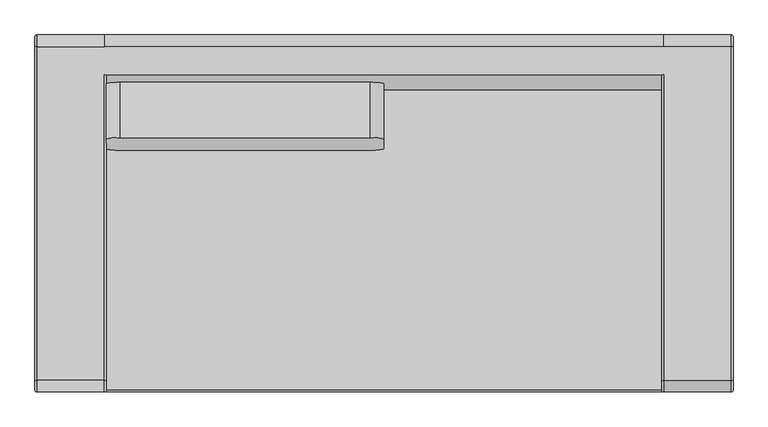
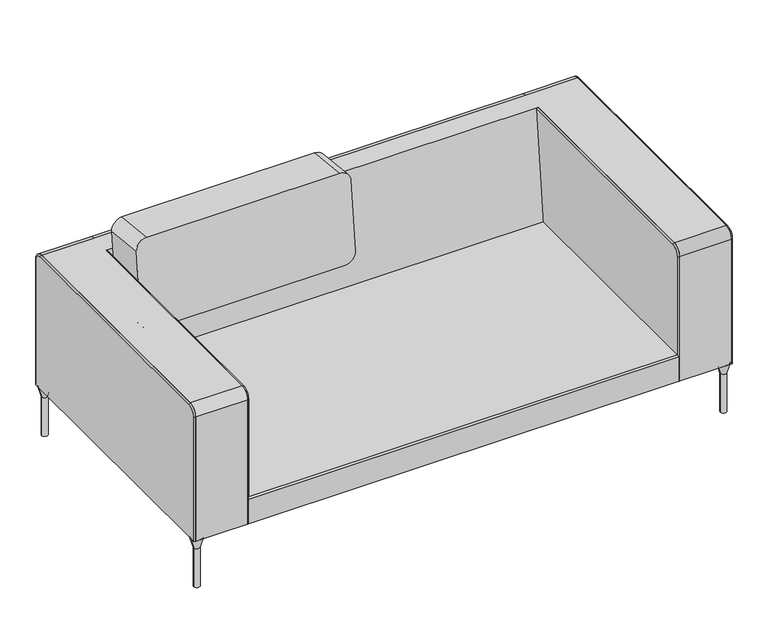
"""IFC4 building model written with IfcOpenShell, lengths in millimetres: furniture geometry, Sofa_Bensen_Neo_NEO200IT : Sofa_Bensen_Neo_NEO200IT."""

from ifc_helpers import new_model, si_unit, point, frame, frame_2d, origin, place, context, project, spatial, polyline, circle_curve, ellipse_curve, trimmed, segment, composite_curve, outline, extrude, source, transform, mapped, element, save
from ifc_brep_helpers import plane_surface, cylinder_surface, revolved_surface, advanced_brep


def furniture_09b90091(model_context):
    return source(origin(), model_context, "Body", "SolidModel", [
        extrude(outline(composite_curve([segment(polyline([(-35.0, -35.0000001), (-35.0, 195.0)]), True, "CONTINUOUS"), segment(trimmed(circle_curve(frame_2d((0.0, 195.0)), 35.0), [point((-35.0, 195.0))], [point((0.0, 230.0))], False, "CARTESIAN"), True, "CONTINUOUS"), segment(polyline([(0.0, 230.0), (630.0, 230.0)]), True, "CONTINUOUS"), segment(trimmed(circle_curve(frame_2d((630.0, 195.0)), 35.0), [point((630.0, 230.0))], [point((665.0, 195.0))], False, "CARTESIAN"), True, "CONTINUOUS"), segment(polyline([(665.0, 195.0), (665.0, -35.0000001)]), True, "CONTINUOUS"), segment(trimmed(circle_curve(frame_2d((630.0, -35.0000001)), 35.0), [point((665.0, -35.0000001))], [point((630.0, -70.0))], False, "CARTESIAN"), True, "CONTINUOUS"), segment(polyline([(630.0, -70.0), (0.0, -70.0)]), True, "CONTINUOUS"), segment(trimmed(circle_curve(frame_2d((0.0, -35.0000001)), 35.0), [point((0.0, -70.0))], [point((-35.0, -35.0000001))], False, "CARTESIAN"), True, "CONTINUOUS")], self_intersect=False)), frame((-665.0000001, 306.1621456, 514.4687306), z_axis=(0.0, -0.9945218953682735, 0.10452846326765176), x_axis=(1.0, 0.0, 0.0)), (0.0, 0.0, 1.0), 140.0),
        advanced_brep(
        [(860.0275996, 430.0263245, 0.0), (869.8719303, 430.0263245, 0.0), (850.1832689, 430.0263245, 0.0), (840.0551992, 430.0263245, 170.0), (880.0, 430.0263245, 170.0), (860.0275996, 430.0263245, 170.0), (850.1832689, 430.0263245, 133.7982678), (869.8719303, 430.0263245, 133.7982678)],
        [
            (0, 1),
            (1, 2, circle_curve(frame((860.0275996, 430.0263245, 0.0), z_axis=(0.0, 0.0, -1.0), x_axis=(1.0, 0.0, 0.0)), 9.8443307)),
            (2, 0),
            (2, 1, circle_curve(frame((860.0275996, 430.0263245, 0.0), z_axis=(0.0, 0.0, -1.0), x_axis=(1.0, 0.0, 0.0)), 9.8443307)),
            (3, 4, circle_curve(frame((860.0275996, 430.0263245, 170.0), z_axis=(0.0, 0.0, 1.0), x_axis=(1.0, 0.0, 0.0)), 19.9724004)),
            (4, 5),
            (5, 3),
            (4, 3, circle_curve(frame((860.0275996, 430.0263245, 170.0), z_axis=(0.0, 0.0, 1.0), x_axis=(1.0, 0.0, 0.0)), 19.9724004)),
            (6, 7, circle_curve(frame((860.0275996, 430.0263245, 133.7982678), z_axis=(0.0, 0.0, 1.0), x_axis=(1.0, 0.0, 0.0)), 9.8443307)),
            (7, 4),
            (3, 6),
            (7, 6, circle_curve(frame((860.0275996, 430.0263245, 133.7982678), z_axis=(0.0, 0.0, 1.0), x_axis=(1.0, 0.0, 0.0)), 9.8443307)),
            (1, 7),
            (6, 2),
        ],
        [
            plane_surface(frame((860.0275996, 430.0263245, 0.0), z_axis=(0.0, 0.0, -1.0), x_axis=(1.0, 0.0, 0.0))),
            plane_surface(frame((860.0275996, 430.0263245, 170.0), z_axis=(0.0, 0.0, 1.0), x_axis=(1.0, 0.0, 0.0))),
            revolved_surface(polyline([(880.0, 430.0263245, 170.0), (869.8719303, 430.0263245, 133.7982678)]), (860.0275996, 430.0263245, 210.0), (0.0, 0.0, -1.0)),
            cylinder_surface(frame((860.0275996, 430.0263245, 210.0), z_axis=(0.0, 0.0, -1.0), x_axis=(1.0, 0.0, 0.0)), 9.8443307),
        ],
        [
            (0, [[1, 2, 3]]),
            (0, [[-3, 4, -1]]),
            (1, [[5, 6, 7]]),
            (1, [[8, -7, -6]]),
            (2, [[9, 10, -5, 11]]),
            (2, [[12, -11, -8, -10]]),
            (3, [[-2, 13, -9, 14]]),
            (3, [[-4, -14, -12, -13]]),
        ],
    ),
        advanced_brep(
        [(860.0275996, -430.0263245, 0.0), (850.1832689, -430.0263245, 0.0), (869.8719303, -430.0263245, 0.0), (840.0551992, -430.0263245, 170.0), (860.0275996, -430.0263245, 170.0), (880.0, -430.0263245, 170.0), (850.1832689, -430.0263245, 133.7982678), (869.8719303, -430.0263245, 133.7982678)],
        [
            (0, 1),
            (1, 2, circle_curve(frame((860.0275996, -430.0263245, 0.0), z_axis=(0.0, 0.0, -1.0), x_axis=(1.0, 0.0, 0.0)), 9.8443307)),
            (2, 0),
            (2, 1, circle_curve(frame((860.0275996, -430.0263245, 0.0), z_axis=(0.0, 0.0, -1.0), x_axis=(1.0, 0.0, 0.0)), 9.8443307)),
            (3, 4),
            (4, 5),
            (5, 3, circle_curve(frame((860.0275996, -430.0263245, 170.0), z_axis=(0.0, 0.0, 1.0), x_axis=(1.0, 0.0, 0.0)), 19.9724004)),
            (3, 5, circle_curve(frame((860.0275996, -430.0263245, 170.0), z_axis=(0.0, 0.0, 1.0), x_axis=(1.0, 0.0, 0.0)), 19.9724004)),
            (6, 3),
            (5, 7),
            (7, 6, circle_curve(frame((860.0275996, -430.0263245, 133.7982678), z_axis=(0.0, 0.0, 1.0), x_axis=(1.0, 0.0, 0.0)), 9.8443307)),
            (6, 7, circle_curve(frame((860.0275996, -430.0263245, 133.7982678), z_axis=(0.0, 0.0, 1.0), x_axis=(1.0, 0.0, 0.0)), 9.8443307)),
            (1, 6),
            (7, 2),
        ],
        [
            plane_surface(frame((860.0275996, -430.0263245, 0.0), z_axis=(0.0, 0.0, -1.0), x_axis=(1.0, 0.0, 0.0))),
            plane_surface(frame((860.0275996, -430.0263245, 170.0), z_axis=(0.0, 0.0, 1.0), x_axis=(1.0, 0.0, 0.0))),
            revolved_surface(polyline([(880.0, -430.0263245, 170.0), (869.8719303, -430.0263245, 133.7982678)]), (860.0275996, -430.0263245, 210.0), (0.0, 0.0, -1.0)),
            cylinder_surface(frame((860.0275996, -430.0263245, 210.0), z_axis=(0.0, 0.0, -1.0), x_axis=(1.0, 0.0, 0.0)), 9.8443307),
        ],
        [
            (0, [[1, 2, 3]]),
            (0, [[-3, 4, -1]]),
            (1, [[5, 6, 7]]),
            (1, [[-6, -5, 8]]),
            (2, [[9, -7, 10, 11]]),
            (2, [[-10, -8, -9, 12]]),
            (3, [[13, -11, 14, -2]]),
            (3, [[-14, -12, -13, -4]]),
        ],
    ),
        advanced_brep(
        [(-860.0275996, 430.0263245, 0.0), (-850.1832689, 430.0263245, 0.0), (-869.8719303, 430.0263245, 0.0), (-840.0551992, 430.0263245, 170.0), (-860.0275996, 430.0263245, 170.0), (-880.0, 430.0263245, 170.0), (-850.1832689, 430.0263245, 133.7982678), (-869.8719303, 430.0263245, 133.7982678)],
        [
            (0, 1),
            (1, 2, circle_curve(frame((-860.0275996, 430.0263245, 0.0), z_axis=(0.0, 0.0, -1.0), x_axis=(-1.0, 0.0, 0.0)), 9.8443307)),
            (2, 0),
            (2, 1, circle_curve(frame((-860.0275996, 430.0263245, 0.0), z_axis=(0.0, 0.0, -1.0), x_axis=(-1.0, 0.0, 0.0)), 9.8443307)),
            (3, 4),
            (4, 5),
            (5, 3, circle_curve(frame((-860.0275996, 430.0263245, 170.0), z_axis=(0.0, 0.0, 1.0), x_axis=(-1.0, 0.0, 0.0)), 19.9724004)),
            (3, 5, circle_curve(frame((-860.0275996, 430.0263245, 170.0), z_axis=(0.0, 0.0, 1.0), x_axis=(-1.0, 0.0, 0.0)), 19.9724004)),
            (6, 3),
            (5, 7),
            (7, 6, circle_curve(frame((-860.0275996, 430.0263245, 133.7982678), z_axis=(0.0, 0.0, 1.0), x_axis=(-1.0, 0.0, 0.0)), 9.8443307)),
            (6, 7, circle_curve(frame((-860.0275996, 430.0263245, 133.7982678), z_axis=(0.0, 0.0, 1.0), x_axis=(-1.0, 0.0, 0.0)), 9.8443307)),
            (1, 6),
            (7, 2),
        ],
        [
            plane_surface(frame((-860.0275996, 430.0263245, 0.0), z_axis=(0.0, 0.0, -1.0), x_axis=(-1.0, 0.0, 0.0))),
            plane_surface(frame((-860.0275996, 430.0263245, 170.0), z_axis=(0.0, 0.0, 1.0), x_axis=(-1.0, 0.0, 0.0))),
            revolved_surface(polyline([(-880.0, 430.0263245, 170.0), (-869.8719303, 430.0263245, 133.7982678)]), (-860.0275996, 430.0263245, 210.0), (0.0, 0.0, -1.0)),
            cylinder_surface(frame((-860.0275996, 430.0263245, 210.0), z_axis=(0.0, 0.0, -1.0), x_axis=(-1.0, 0.0, 0.0)), 9.8443307),
        ],
        [
            (0, [[1, 2, 3]]),
            (0, [[-3, 4, -1]]),
            (1, [[5, 6, 7]]),
            (1, [[-6, -5, 8]]),
            (2, [[9, -7, 10, 11]]),
            (2, [[-10, -8, -9, 12]]),
            (3, [[13, -11, 14, -2]]),
            (3, [[-14, -12, -13, -4]]),
        ],
    ),
        advanced_brep(
        [(-860.0275996, -430.0263245, 0.0), (-869.8719303, -430.0263245, 0.0), (-850.1832689, -430.0263245, 0.0), (-840.0551992, -430.0263245, 170.0), (-880.0, -430.0263245, 170.0), (-860.0275996, -430.0263245, 170.0), (-850.1832689, -430.0263245, 133.7982678), (-869.8719303, -430.0263245, 133.7982678)],
        [
            (0, 1),
            (1, 2, circle_curve(frame((-860.0275996, -430.0263245, 0.0), z_axis=(0.0, 0.0, -1.0), x_axis=(-1.0, 0.0, 0.0)), 9.8443307)),
            (2, 0),
            (2, 1, circle_curve(frame((-860.0275996, -430.0263245, 0.0), z_axis=(0.0, 0.0, -1.0), x_axis=(-1.0, 0.0, 0.0)), 9.8443307)),
            (3, 4, circle_curve(frame((-860.0275996, -430.0263245, 170.0), z_axis=(0.0, 0.0, 1.0), x_axis=(-1.0, 0.0, 0.0)), 19.9724004)),
            (4, 5),
            (5, 3),
            (4, 3, circle_curve(frame((-860.0275996, -430.0263245, 170.0), z_axis=(0.0, 0.0, 1.0), x_axis=(-1.0, 0.0, 0.0)), 19.9724004)),
            (6, 7, circle_curve(frame((-860.0275996, -430.0263245, 133.7982678), z_axis=(0.0, 0.0, 1.0), x_axis=(-1.0, 0.0, 0.0)), 9.8443307)),
            (7, 4),
            (3, 6),
            (7, 6, circle_curve(frame((-860.0275996, -430.0263245, 133.7982678), z_axis=(0.0, 0.0, 1.0), x_axis=(-1.0, 0.0, 0.0)), 9.8443307)),
            (1, 7),
            (6, 2),
        ],
        [
            plane_surface(frame((-860.0275996, -430.0263245, 0.0), z_axis=(0.0, 0.0, -1.0), x_axis=(-1.0, 0.0, 0.0))),
            plane_surface(frame((-860.0275996, -430.0263245, 170.0), z_axis=(0.0, 0.0, 1.0), x_axis=(-1.0, 0.0, 0.0))),
            revolved_surface(polyline([(-880.0, -430.0263245, 170.0), (-869.8719303, -430.0263245, 133.7982678)]), (-860.0275996, -430.0263245, 210.0), (0.0, 0.0, -1.0)),
            cylinder_surface(frame((-860.0275996, -430.0263245, 210.0), z_axis=(0.0, 0.0, -1.0), x_axis=(-1.0, 0.0, 0.0)), 9.8443307),
        ],
        [
            (0, [[1, 2, 3]]),
            (0, [[-3, 4, -1]]),
            (1, [[5, 6, 7]]),
            (1, [[8, -7, -6]]),
            (2, [[9, 10, -5, 11]]),
            (2, [[12, -11, -8, -10]]),
            (3, [[-2, 13, -9, 14]]),
            (3, [[-4, -14, -12, -13]]),
        ],
    ),
        advanced_brep(
        [(875.0, -449.9987249, 170.0), (875.0, -449.9987249, 599.5427565), (875.0, -419.9987249, 629.5427565), (875.0, 419.998725, 629.5427565), (875.0, 449.998725, 599.5427565), (875.0, 449.998725, 170.0), (880.0, -444.9987249, 170.0), (880.0, 444.998725, 170.0), (880.0, 444.998725, 599.5427565), (880.0, 419.998725, 624.5427565), (880.0, -419.9987249, 624.5427565), (880.0, -444.9987249, 599.5427565)],
        [
            (0, 1),
            (1, 2, circle_curve(frame((875.0, -419.9987249, 599.5427565), z_axis=(-1.0, 0.0, 0.0), x_axis=(0.0, 0.0, 1.0)), 30.0)),
            (2, 3),
            (3, 4, circle_curve(frame((875.0, 419.998725, 599.5427565), z_axis=(-1.0, 0.0, 0.0), x_axis=(0.0, 1.0, 0.0)), 30.0)),
            (4, 5),
            (5, 0),
            (6, 7),
            (7, 8),
            (8, 9, circle_curve(frame((880.0, 419.998725, 599.5427565), z_axis=(1.0, 0.0, 0.0), x_axis=(0.0, 1.0, 0.0)), 25.0)),
            (9, 10),
            (10, 11, circle_curve(frame((880.0, -419.9987249, 599.5427565), z_axis=(1.0, 0.0, 0.0), x_axis=(0.0, 0.0, 1.0)), 25.0)),
            (11, 6),
            (5, 7, circle_curve(frame((875.0, 444.998725, 170.0), z_axis=(0.0, 0.0, -1.0), x_axis=(-1.0, 0.0, 0.0)), 5.0)),
            (6, 0, circle_curve(frame((875.0, -444.9987249, 170.0), z_axis=(0.0, 0.0, -1.0), x_axis=(-1.0, 0.0, 0.0)), 5.0)),
            (9, 3, circle_curve(frame((875.0, 419.998725, 624.5427565), z_axis=(0.0, -1.0, 0.0), x_axis=(-1.0, 0.0, 0.0)), 5.0)),
            (2, 10, circle_curve(frame((875.0, -419.9987249, 624.5427565), z_axis=(0.0, 1.0, 0.0), x_axis=(-1.0, 0.0, 0.0)), 5.0)),
            (1, 11, circle_curve(frame((875.0, -444.9987249, 599.5427565), z_axis=(0.0, 0.0, 1.0), x_axis=(-1.0, 0.0, 0.0)), 5.0)),
            (4, 8, circle_curve(frame((875.0, 444.998725, 599.5427565), z_axis=(0.0, 0.0, -1.0), x_axis=(-1.0, 0.0, 0.0)), 5.0)),
        ],
        [
            plane_surface(frame((875.0, 444.998725, 599.5427565), z_axis=(-1.0, 0.0, 0.0), x_axis=(0.0, 0.0, -1.0))),
            plane_surface(frame((880.0, 444.998725, 599.5427565), z_axis=(1.0, 0.0, 0.0), x_axis=(0.0, 0.0, 1.0))),
            plane_surface(frame((875.0, 444.998725, 170.0), z_axis=(0.0, 0.0, -1.0), x_axis=(1.0, 0.0, 0.0))),
            cylinder_surface(frame((875.0, 419.998725, 624.5427565), z_axis=(0.0, 1.0, 0.0), x_axis=(-1.0, 0.0, 0.0)), 5.0),
            revolved_surface(trimmed(ellipse_curve(frame((875.0, -419.9987249, 624.5427565), z_axis=(0.0, 1.0, 0.0), x_axis=(-1.0, 0.0, 0.0)), 5.0, 5.0), [point((875.0, -419.9987249, 629.5427565))], [point((880.0, -419.9987249, 624.5427565))], True, "CARTESIAN"), (395.0, -419.9987249, 599.5427565), (1.0, 0.0, 0.0)),
            cylinder_surface(frame((875.0, -444.9987249, 599.5427565), z_axis=(0.0, 0.0, 1.0), x_axis=(-1.0, 0.0, 0.0)), 5.0),
            cylinder_surface(frame((875.0, 444.998725, 170.0), z_axis=(0.0, 0.0, -1.0), x_axis=(-1.0, 0.0, 0.0)), 5.0),
            revolved_surface(trimmed(ellipse_curve(frame((875.0, 444.998725, 599.5427565), z_axis=(0.0, 0.0, -1.0), x_axis=(-1.0, 0.0, 0.0)), 5.0, 5.0), [point((875.0, 449.998725, 599.5427565))], [point((880.0, 444.998725, 599.5427565))], True, "CARTESIAN"), (395.0, 419.998725, 599.5427565), (1.0, 0.0, 0.0)),
        ],
        [
            (0, [[1, 2, 3, 4, 5, 6]]),
            (1, [[7, 8, 9, 10, 11, 12]]),
            (2, [[-6, 13, -7, 14]]),
            (3, [[15, -3, 16, -10]]),
            (4, [[-16, -2, 17, -11]]),
            (5, [[-17, -1, -14, -12]]),
            (6, [[-13, -5, 18, -8]]),
            (7, [[-15, -9, -18, -4]]),
        ],
    ),
        advanced_brep(
        [(705.0, -444.9987249, 259.4004127), (705.0, 349.998725, 259.4004127), (705.0, 349.998725, 629.5427565), (705.0, -419.9987249, 629.5427565), (705.0, -449.9987249, 599.5427565), (705.0, -449.9987249, 170.0), (705.0, -444.9987249, 170.0), (700.0000001, 349.998725, 624.5427565), (700.0000001, 349.998725, 259.4004127), (700.0000001, -444.9987249, 259.4004127), (700.0000001, -444.9987249, 599.5427565), (700.0000001, -419.9987249, 624.5427565), (700.0, -444.9987249, 170.0)],
        [
            (0, 1),
            (1, 2),
            (2, 3),
            (3, 4, circle_curve(frame((705.0, -419.9987249, 599.5427565), z_axis=(1.0, 0.0, 0.0), x_axis=(0.0, 0.0, 1.0)), 30.0)),
            (4, 5),
            (5, 6),
            (6, 0),
            (7, 8),
            (8, 9),
            (9, 10),
            (10, 11, circle_curve(frame((700.0000001, -419.9987249, 599.5427565), z_axis=(-1.0, 0.0, 0.0), x_axis=(0.0, 0.0, 1.0)), 25.0)),
            (11, 7),
            (0, 9),
            (8, 1),
            (7, 2, circle_curve(frame((705.0, 349.998725, 624.5427565), z_axis=(0.0, 1.0, 0.0), x_axis=(0.0, 0.0, -1.0)), 5.0)),
            (11, 3, circle_curve(frame((705.0, -419.9987249, 624.5427565), z_axis=(0.0, 1.0, 0.0), x_axis=(0.0, 0.0, -1.0)), 5.0)),
            (10, 4, circle_curve(frame((705.0, -444.9987249, 599.5427565), z_axis=(0.0, 0.0, 1.0), x_axis=(0.0, 1.0, 0.0)), 5.0)),
            (5, 12, circle_curve(frame((705.0, -444.9987249, 170.0), z_axis=(0.0, 0.0, -1.0), x_axis=(0.0, 1.0, 0.0)), 5.0)),
            (12, 6),
            (12, 9),
        ],
        [
            plane_surface(frame((705.0, -394.9987249, 599.5427565), z_axis=(1.0, 0.0, 0.0), x_axis=(0.0, 0.0, 1.0))),
            plane_surface(frame((700.0000001, -394.9987249, 599.5427565), z_axis=(-1.0, 0.0, 0.0), x_axis=(0.0, 0.0, -1.0))),
            plane_surface(frame((705.0, -444.9987249, 259.4004127), z_axis=(0.0, 0.0, -1.0), x_axis=(-1.0, 0.0, 0.0))),
            plane_surface(frame((705.0, 349.998725, 259.4004127), z_axis=(0.0, 1.0, 0.0), x_axis=(-1.0, 0.0, 0.0))),
            cylinder_surface(frame((705.0, 349.998725, 624.5427565), z_axis=(0.0, 1.0, 0.0), x_axis=(0.0, 0.0, -1.0)), 5.0),
            revolved_surface(trimmed(ellipse_curve(frame((705.0, -419.9987249, 624.5427565), z_axis=(0.0, 1.0, 0.0), x_axis=(0.0, 0.0, -1.0)), 5.0, 5.0), [point((700.0, -419.9987249, 624.5427565))], [point((705.0, -419.9987249, 629.5427565))], True, "CARTESIAN"), (395.0, -419.9987249, 599.5427565), (1.0, 0.0, 0.0)),
            plane_surface(frame((395.0, -449.9987249, 170.0), z_axis=(0.0, 0.0, -1.0), x_axis=(1.0, 0.0, 0.0))),
            plane_surface(frame((705.0, -444.9987249, 599.5427565), z_axis=(0.0, 1.0, 0.0), x_axis=(0.0, 0.0, -1.0))),
            cylinder_surface(frame((705.0, -444.9987249, 599.5427565), z_axis=(0.0, 0.0, 1.0), x_axis=(0.0, 1.0, 0.0)), 5.0),
        ],
        [
            (0, [[1, 2, 3, 4, 5, 6, 7]]),
            (1, [[8, 9, 10, 11, 12]]),
            (2, [[-1, 13, -9, 14]]),
            (3, [[-2, -14, -8, 15]]),
            (4, [[-15, -12, 16, -3]]),
            (5, [[-16, -11, 17, -4]]),
            (6, [[-6, 18, 19]]),
            (7, [[-19, 20, -13, -7]]),
            (8, [[-5, -17, -10, -20, -18]]),
        ],
    ),
        advanced_brep(
        [(-705.0, 349.998725, 259.4004127), (-705.0, -444.9987249, 259.4004127), (-705.0, -444.9987249, 170.0), (-705.0, -449.9987249, 170.0), (-705.0, -449.9987249, 599.5427565), (-705.0, -419.9987249, 629.5427565), (-705.0, 349.998725, 629.5427565), (-700.0000001, -444.9987249, 259.4004127), (-700.0000001, 349.998725, 259.4004127), (-700.0000001, 349.998725, 624.5427565), (-700.0000001, -419.9987249, 624.5427565), (-700.0000001, -444.9987249, 599.5427565), (-700.0, -444.9987249, 170.0)],
        [
            (0, 1),
            (1, 2),
            (2, 3),
            (3, 4),
            (4, 5, circle_curve(frame((-705.0, -419.9987249, 599.5427565), z_axis=(-1.0, 0.0, 0.0), x_axis=(0.0, 0.0, 1.0)), 30.0)),
            (5, 6),
            (6, 0),
            (7, 8),
            (8, 9),
            (9, 10),
            (10, 11, circle_curve(frame((-700.0000001, -419.9987249, 599.5427565), z_axis=(1.0, 0.0, 0.0), x_axis=(0.0, 0.0, 1.0)), 25.0)),
            (11, 7),
            (0, 8),
            (7, 1),
            (6, 9, circle_curve(frame((-705.0, 349.998725, 624.5427565), z_axis=(0.0, 1.0, 0.0), x_axis=(0.0, 0.0, 1.0)), 5.0)),
            (5, 10, circle_curve(frame((-705.0, -419.9987249, 624.5427565), z_axis=(0.0, 1.0, 0.0), x_axis=(0.0, 0.0, 1.0)), 5.0)),
            (4, 11, circle_curve(frame((-705.0, -444.9987249, 599.5427565), z_axis=(0.0, 0.0, 1.0), x_axis=(0.0, -1.0, 0.0)), 5.0)),
            (2, 12),
            (12, 3, circle_curve(frame((-705.0, -444.9987249, 170.0), z_axis=(0.0, 0.0, -1.0), x_axis=(0.0, -1.0, 0.0)), 5.0)),
            (7, 12),
        ],
        [
            plane_surface(frame((-705.0, 349.998725, 624.5427565), z_axis=(-1.0, 0.0, 0.0), x_axis=(0.0, 1.0, 0.0))),
            plane_surface(frame((-700.0000001, 349.998725, 624.5427565), z_axis=(1.0, 0.0, 0.0), x_axis=(0.0, -1.0, 0.0))),
            plane_surface(frame((-705.0, 349.998725, 259.4004127), z_axis=(0.0, 0.0, -1.0), x_axis=(1.0, 0.0, 0.0))),
            plane_surface(frame((-705.0, 349.998725, 624.5427565), z_axis=(0.0, 1.0, 0.0), x_axis=(1.0, 0.0, 0.0))),
            cylinder_surface(frame((-705.0, 349.998725, 624.5427565), z_axis=(0.0, 1.0, 0.0), x_axis=(0.0, 0.0, 1.0)), 5.0),
            revolved_surface(trimmed(ellipse_curve(frame((-705.0, -419.9987249, 624.5427565), z_axis=(0.0, 1.0, 0.0), x_axis=(0.0, 0.0, 1.0)), 5.0, 5.0), [point((-705.0, -419.9987249, 629.5427565))], [point((-700.0, -419.9987249, 624.5427565))], True, "CARTESIAN"), (-395.0, -419.9987249, 599.5427565), (1.0, 0.0, 0.0)),
            plane_surface(frame((-395.0, -449.9987249, 170.0), z_axis=(0.0, 0.0, -1.0), x_axis=(-1.0, 0.0, 0.0))),
            plane_surface(frame((-700.0, -444.9987249, 599.5427565), z_axis=(0.0, 1.0, 0.0), x_axis=(0.0, 0.0, -1.0))),
            cylinder_surface(frame((-705.0, -444.9987249, 599.5427565), z_axis=(0.0, 0.0, 1.0), x_axis=(0.0, -1.0, 0.0)), 5.0),
        ],
        [
            (0, [[1, 2, 3, 4, 5, 6, 7]]),
            (1, [[8, 9, 10, 11, 12]]),
            (2, [[-1, 13, -8, 14]]),
            (3, [[-7, 15, -9, -13]]),
            (4, [[-15, -6, 16, -10]]),
            (5, [[-16, -5, 17, -11]]),
            (6, [[-3, 18, 19]]),
            (7, [[-18, -2, -14, 20]]),
            (8, [[-4, -19, -20, -12, -17]]),
        ],
    ),
        advanced_brep(
        [(-875.0, 449.998725, 170.0), (-875.0, 449.998725, 599.5427565), (-875.0, 419.998725, 629.5427565), (-875.0, -419.9987249, 629.5427565), (-875.0, -449.9987249, 599.5427565), (-875.0, -449.9987249, 170.0), (-880.0, 444.998725, 170.0), (-880.0, -444.9987249, 170.0), (-880.0, -444.9987249, 599.5427565), (-880.0, -419.9987249, 624.5427565), (-880.0, 419.998725, 624.5427565), (-880.0, 444.998725, 599.5427565)],
        [
            (0, 1),
            (1, 2, circle_curve(frame((-875.0, 419.998725, 599.5427565), z_axis=(1.0, 0.0, 0.0), x_axis=(0.0, 1.0, 0.0)), 30.0)),
            (2, 3),
            (3, 4, circle_curve(frame((-875.0, -419.9987249, 599.5427565), z_axis=(1.0, 0.0, 0.0), x_axis=(0.0, 0.0, 1.0)), 30.0)),
            (4, 5),
            (5, 0),
            (6, 7),
            (7, 8),
            (8, 9, circle_curve(frame((-880.0, -419.9987249, 599.5427565), z_axis=(-1.0, 0.0, 0.0), x_axis=(0.0, 0.0, 1.0)), 25.0)),
            (9, 10),
            (10, 11, circle_curve(frame((-880.0, 419.998725, 599.5427565), z_axis=(-1.0, 0.0, 0.0), x_axis=(0.0, 1.0, 0.0)), 25.0)),
            (11, 6),
            (5, 7, circle_curve(frame((-875.0, -444.9987249, 170.0), z_axis=(0.0, 0.0, -1.0), x_axis=(1.0, 0.0, 0.0)), 5.0)),
            (6, 0, circle_curve(frame((-875.0, 444.998725, 170.0), z_axis=(0.0, 0.0, -1.0), x_axis=(1.0, 0.0, 0.0)), 5.0)),
            (2, 10, circle_curve(frame((-875.0, 419.998725, 624.5427565), z_axis=(0.0, -1.0, 0.0), x_axis=(1.0, 0.0, 0.0)), 5.0)),
            (9, 3, circle_curve(frame((-875.0, -419.9987249, 624.5427565), z_axis=(0.0, 1.0, 0.0), x_axis=(1.0, 0.0, 0.0)), 5.0)),
            (8, 4, circle_curve(frame((-875.0, -444.9987249, 599.5427565), z_axis=(0.0, 0.0, 1.0), x_axis=(1.0, 0.0, 0.0)), 5.0)),
            (11, 1, circle_curve(frame((-875.0, 444.998725, 599.5427565), z_axis=(0.0, 0.0, -1.0), x_axis=(1.0, 0.0, 0.0)), 5.0)),
        ],
        [
            plane_surface(frame((-875.0, -419.9987249, 624.5427565), z_axis=(1.0, 0.0, 0.0), x_axis=(0.0, -1.0, 0.0))),
            plane_surface(frame((-880.0, -419.9987249, 624.5427565), z_axis=(-1.0, 0.0, 0.0), x_axis=(0.0, 1.0, 0.0))),
            plane_surface(frame((-875.0, -444.9987249, 170.0), z_axis=(0.0, 0.0, -1.0), x_axis=(-1.0, 0.0, 0.0))),
            cylinder_surface(frame((-875.0, 419.998725, 624.5427565), z_axis=(0.0, 1.0, 0.0), x_axis=(1.0, 0.0, 0.0)), 5.0),
            revolved_surface(trimmed(ellipse_curve(frame((-875.0, -419.9987249, 624.5427565), z_axis=(0.0, 1.0, 0.0), x_axis=(1.0, 0.0, 0.0)), 5.0, 5.0), [point((-880.0, -419.9987249, 624.5427565))], [point((-875.0, -419.9987249, 629.5427565))], True, "CARTESIAN"), (-395.0, -419.9987249, 599.5427565), (1.0, 0.0, 0.0)),
            cylinder_surface(frame((-875.0, -444.9987249, 599.5427565), z_axis=(0.0, 0.0, 1.0), x_axis=(1.0, 0.0, 0.0)), 5.0),
            cylinder_surface(frame((-875.0, 444.998725, 170.0), z_axis=(0.0, 0.0, -1.0), x_axis=(1.0, 0.0, 0.0)), 5.0),
            revolved_surface(trimmed(ellipse_curve(frame((-875.0, 444.998725, 599.5427565), z_axis=(0.0, 0.0, -1.0), x_axis=(1.0, 0.0, 0.0)), 5.0, 5.0), [point((-880.0, 444.998725, 599.5427565))], [point((-875.0, 449.998725, 599.5427565))], True, "CARTESIAN"), (-395.0, 419.998725, 599.5427565), (1.0, 0.0, 0.0)),
        ],
        [
            (0, [[1, 2, 3, 4, 5, 6]]),
            (1, [[7, 8, 9, 10, 11, 12]]),
            (2, [[-6, 13, -7, 14]]),
            (3, [[15, -10, 16, -3]]),
            (4, [[-16, -9, 17, -4]]),
            (5, [[-17, -8, -13, -5]]),
            (6, [[-14, -12, 18, -1]]),
            (7, [[-15, -2, -18, -11]]),
        ],
    ),
        advanced_brep(
        [(-705.0, -419.9987249, 629.5427565), (-705.0, -449.9987249, 599.5427565), (-705.0, -449.9987249, 254.4004127), (-705.0, -444.9987249, 259.4004127), (-705.0, 311.095197, 259.4004127), (-705.0, 349.998725, 629.5427565), (-875.0, -419.9987249, 629.5427565), (-875.0, 419.998725, 629.5427565), (-875.0, 449.998725, 599.5427565), (-875.0, 449.998725, 170.0), (-875.0, -449.9987249, 170.0), (-875.0, -449.9987249, 599.5427565), (875.0, -449.9987249, 170.0), (875.0, -449.9987249, 599.5427565), (705.0, -449.9987249, 599.5427565), (705.0, -449.9987249, 254.4004127), (875.0, 449.998725, 170.0), (-705.0, 449.998725, 599.5427565), (705.0, 449.998725, 599.5427565), (875.0, 449.998725, 599.5427565), (-705.0, 419.998725, 629.5427565), (705.0, 349.998725, 629.5427565), (705.0, -419.9987249, 629.5427565), (875.0, -419.9987249, 629.5427565), (875.0, 419.998725, 629.5427565), (705.0, 419.998725, 629.5427565), (705.0, -444.9987249, 259.4004127), (705.0, 311.095197, 259.4004127)],
        [
            (0, 1, circle_curve(frame((-705.0, -419.9987249, 599.5427565), z_axis=(1.0, 0.0, 0.0), x_axis=(0.0, -1.0, 0.0)), 30.0)),
            (1, 2),
            (2, 3, circle_curve(frame((-705.0, -444.9987249, 254.4004127), z_axis=(-1.0, 0.0, 0.0), x_axis=(0.0, -1.0, 0.0)), 5.0)),
            (3, 4),
            (4, 5),
            (5, 0),
            (6, 7),
            (7, 8, circle_curve(frame((-875.0, 419.998725, 599.5427565), z_axis=(-1.0, 0.0, 0.0), x_axis=(0.0, -1.0, 0.0)), 30.0)),
            (8, 9),
            (9, 10),
            (10, 11),
            (11, 6, circle_curve(frame((-875.0, -419.9987249, 599.5427565), z_axis=(-1.0, 0.0, 0.0), x_axis=(0.0, -1.0, 0.0)), 30.0)),
            (0, 6),
            (11, 1),
            (10, 12),
            (12, 13),
            (13, 14),
            (14, 15),
            (15, 2),
            (9, 16),
            (16, 12),
            (8, 17),
            (17, 18),
            (18, 19),
            (19, 16),
            (7, 20),
            (20, 17, circle_curve(frame((-705.0, 419.998725, 599.5427565), z_axis=(-1.0, 0.0, 0.0), x_axis=(0.0, -1.0, 0.0)), 30.0)),
            (5, 21),
            (21, 22),
            (22, 23),
            (23, 24),
            (24, 25),
            (25, 20),
            (3, 26),
            (26, 27),
            (27, 4),
            (15, 26, circle_curve(frame((705.0, -444.9987249, 254.4004127), z_axis=(-1.0, 0.0, 0.0), x_axis=(0.0, -1.0, 0.0)), 5.0)),
            (14, 22, circle_curve(frame((705.0, -419.9987249, 599.5427565), z_axis=(-1.0, 0.0, 0.0), x_axis=(0.0, -1.0, 0.0)), 30.0)),
            (21, 27),
            (23, 13, circle_curve(frame((875.0, -419.9987249, 599.5427565), z_axis=(1.0, 0.0, 0.0), x_axis=(0.0, -1.0, 0.0)), 30.0)),
            (19, 24, circle_curve(frame((875.0, 419.998725, 599.5427565), z_axis=(1.0, 0.0, 0.0), x_axis=(0.0, -1.0, 0.0)), 30.0)),
            (18, 25, circle_curve(frame((705.0, 419.998725, 599.5427565), z_axis=(1.0, 0.0, 0.0), x_axis=(0.0, -1.0, 0.0)), 30.0)),
        ],
        [
            plane_surface(frame((-705.0, -449.9987249, 599.5427565), z_axis=(1.0, 0.0, 0.0), x_axis=(0.0, 0.0, -1.0))),
            plane_surface(frame((-875.0, -449.9987249, 599.5427565), z_axis=(-1.0, 0.0, 0.0), x_axis=(0.0, 0.0, 1.0))),
            cylinder_surface(frame((-875.0, -419.9987249, 599.5427565), z_axis=(1.0, 0.0, 0.0), x_axis=(0.0, -1.0, 0.0)), 30.0),
            plane_surface(frame((-705.0, -449.9987249, 599.5427565), z_axis=(0.0, -1.0, 0.0), x_axis=(-1.0, 0.0, 0.0))),
            plane_surface(frame((-705.0, -449.9987249, 170.0), z_axis=(0.0, 0.0, -1.0), x_axis=(-1.0, 0.0, 0.0))),
            plane_surface(frame((-705.0, 449.998725, 170.0), z_axis=(0.0, 1.0, 0.0), x_axis=(-1.0, 0.0, 0.0))),
            cylinder_surface(frame((-875.0, 419.998725, 599.5427565), z_axis=(1.0, 0.0, 0.0), x_axis=(0.0, -1.0, 0.0)), 30.0),
            plane_surface(frame((-705.0, 419.998725, 629.5427565), z_axis=(0.0, 0.0, 1.0), x_axis=(-1.0, 0.0, 0.0))),
            plane_surface(frame((705.0, 311.095197, 259.4004127), z_axis=(0.0, 0.0, 1.0), x_axis=(-1.0, 0.0, 0.0))),
            cylinder_surface(frame((-705.0, -444.9987249, 254.4004127), z_axis=(1.0, 0.0, 0.0), x_axis=(0.0, -1.0, 0.0)), 5.0),
            plane_surface(frame((705.0, 449.998725, 629.5427565), z_axis=(-1.0, 0.0, 0.0), x_axis=(0.0, 1.0, 0.0))),
            plane_surface(frame((875.0, 449.998725, 629.5427565), z_axis=(1.0, 0.0, 0.0), x_axis=(0.0, -1.0, 0.0))),
            cylinder_surface(frame((875.0, -419.9987249, 599.5427565), z_axis=(-1.0, 0.0, 0.0), x_axis=(0.0, -1.0, 0.0)), 30.0),
            cylinder_surface(frame((875.0, 419.998725, 599.5427565), z_axis=(-1.0, 0.0, 0.0), x_axis=(0.0, -1.0, 0.0)), 30.0),
            plane_surface(frame((-705.0, 301.698701, 169.9987249), z_axis=(0.0, -0.9945218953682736, 0.10452846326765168), x_axis=(1.0, 0.0, 0.0))),
            cylinder_surface(frame((705.0, 419.998725, 599.5427565), z_axis=(-1.0, 0.0, 0.0), x_axis=(0.0, -1.0, 0.0)), 30.0),
        ],
        [
            (0, [[1, 2, 3, 4, 5, 6]]),
            (1, [[7, 8, 9, 10, 11, 12]]),
            (2, [[-1, 13, -12, 14]]),
            (3, [[-11, 15, 16, 17, 18, 19, -2, -14]]),
            (4, [[-10, 20, 21, -15]]),
            (5, [[-20, -9, 22, 23, 24, 25]]),
            (6, [[-8, 26, 27, -22]]),
            (7, [[-7, -13, -6, 28, 29, 30, 31, 32, 33, -26]]),
            (8, [[34, 35, 36, -4]]),
            (9, [[-19, 37, -34, -3]]),
            (10, [[38, -29, 39, -35, -37, -18]]),
            (11, [[40, -16, -21, -25, 41, -31]]),
            (12, [[-38, -17, -40, -30]]),
            (13, [[-41, -24, 42, -32]]),
            (14, [[-28, -5, -36, -39]]),
            (15, [[-33, -42, -23, -27]]),
        ],
    ),
    ])


if __name__ == "__main__":
    model = new_model("IFC4")
    model_context = context("Model", 3, world=origin())
    ifc_project = project(units=[si_unit("LENGTHUNIT", "METRE", prefix="MILLI")], contexts=[model_context])
    site = spatial("IfcSite", under=ifc_project)
    building = spatial("IfcBuilding", under=site)
    placement = place(None, origin())
    furniture_shape = furniture_09b90091(model_context)
    element("IfcFurniture", 1, ObjectType="Sofa_Bensen_Neo_NEO200IT : Sofa_Bensen_Neo_NEO200IT", at=placement, inside=building, context=model_context, shape_type="MappedRepresentation", body=[
        mapped(furniture_shape, transform((0.0, 0.0, 0.0), x_axis=(1.0, 0.0, 0.0), y_axis=(0.0, 1.0, 0.0), z_axis=(0.0, 0.0, 1.0))),
    ])
    save(model, "model.ifc")
